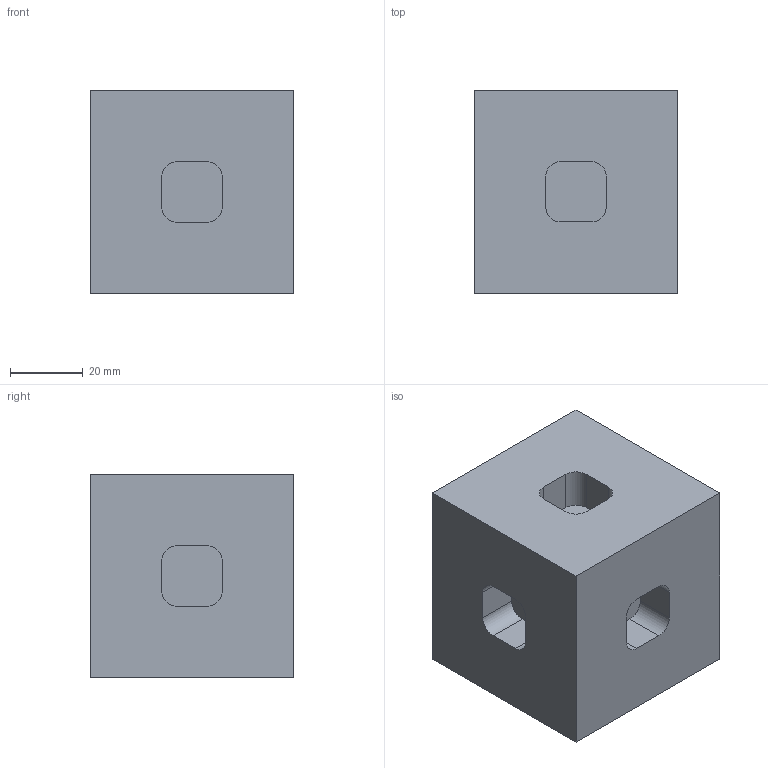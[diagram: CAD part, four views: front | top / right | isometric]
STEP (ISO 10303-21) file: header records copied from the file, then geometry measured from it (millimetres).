
FILE_DESCRIPTION(/* description */ ('STEP AP242 Edition 2','CAx-IF Rec.Pracs.---Representation and Presentation of Product Manufacturing Information (PMI)---4.0---2014-10-13','CAx-IF Rec.Pracs.---3D Tessellated Geometry---0.4---2014-09-14','2;1','CAx-IF Rec.Pracs.---User Defined Attributes---1.5---2016-08-15'),/* implementation_level */ '2;1');
FILE_NAME(/* name */ 'Assembly 1 - cube'' (1)',/* time_stamp */ '2026-09-25T20:07:15Z',/* author */ (''),/* organization */ (''),/* preprocessor_version */ 'ST-DEVELOPER v20',/* originating_system */ 'ONSHAPE BY PTC INC, 1.221',/* authorisation */ ' ');
FILE_SCHEMA (('AP242_MANAGED_MODEL_BASED_3D_ENGINEERING_MIM_LF { 1 0 10303 442 3 1 4 }'));
Length unit declared in the file: metre
Products named in the file (1): cube'
Bounding box: 56 x 56 x 56 mm (x, y, z)
Volume: 157859.4 mm3; surface area: 22853.4 mm2
Topology: 1 solids, 1 shells, 60 faces, 156 edges, 104 vertices
Faces by surface type: plane 36, cylinder 24
Entity records: 1870 total; most frequent: DIRECTION 326, CARTESIAN_POINT 321, ORIENTED_EDGE 312, EDGE_CURVE 156, AXIS2_PLACEMENT_3D 109, LINE 108, VECTOR 108, VERTEX_POINT 104
